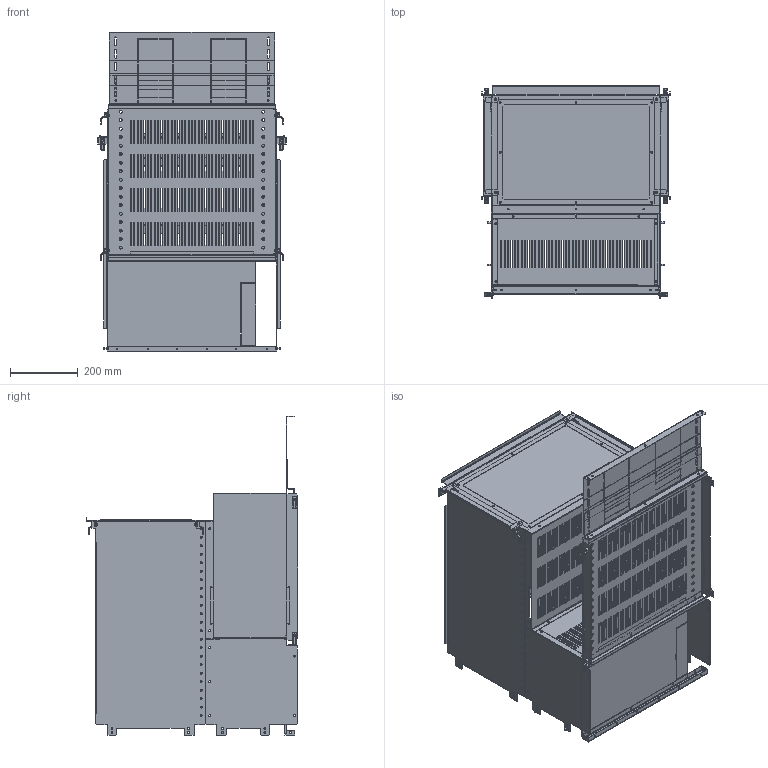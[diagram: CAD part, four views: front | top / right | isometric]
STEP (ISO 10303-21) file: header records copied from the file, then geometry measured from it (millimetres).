
FILE_DESCRIPTION(('CAx-IF Rec.Pracs.---Model Styling and Organization---1.2---2011-12-15','CAx-IF Rec.Pracs.---Geometric and Assembly Validation Properties---4.1---2014-06-16','CAx-IF Rec.Pracs.---PMI Polyline Presentation---2.0---2013-05-24'),'2;1');
FILE_NAME('R5FCMR66048 (F).stp','2021-05-06T02:38:58+03:00',(''),(''),'STEP Interface 4.4 by CT CoreTechnologie','3D_Evolution4.4 by CT CoreTechnologie','');
FILE_SCHEMA(('AUTOMOTIVE_DESIGN { 1 0 10303 214 1 1 1 1 }'));
Length unit declared in the file: millimetre
Products named in the file (21): R5FCMR66048 (F); M6x16-DIN 7985 ISR_thread; AC00C485; RB.0705.00.00.1_-07; M5x12-DIN7500C_stright; RB.0546.00.00.0_-01; RB.0706.00.00.1_-01; RB.0706.00.00.1_-03; RB.0546.00.00.0_-00; RB.0708.00.00.1_-00; RB.0705.00.00.1_-03; RB.0691.00.00.1_-02; RB.0707.00.00.1_-01; RB.0700.00.00.1_-01; RB.0699.00.00.1_-01; RB.0697.00.00.1_-01; RB.0696.00.00.1_-00; RB.0698.00.00.1_-04; RB.0695.00.00.1_-00; RB.0694.00.00.1_-00; RB.1165.00.00.0_-03
Assembly tree (40 placements, depth 2):
  R5FCMR66048 (F)
    M6x16-DIN 7985 ISR_thread  x8
    AC00C485  x8
    RB.0705.00.00.1_-07
    M5x12-DIN7500C_stright  x4
    RB.0546.00.00.0_-01  x2
    RB.0706.00.00.1_-01
    RB.0706.00.00.1_-03
    RB.0546.00.00.0_-00  x2
    RB.0708.00.00.1_-00
    RB.0705.00.00.1_-03
    RB.0691.00.00.1_-02
    RB.0707.00.00.1_-01
    RB.0700.00.00.1_-01
    RB.0699.00.00.1_-01
    RB.0697.00.00.1_-01
    RB.0696.00.00.1_-00  x2
    RB.0698.00.00.1_-04
    RB.0695.00.00.1_-00
    RB.0694.00.00.1_-00
    RB.1165.00.00.0_-03
Bounding box: 555.5 x 624 x 941 mm (x, y, z)
Surface area: 3726467.7 mm2 (no closed solid volume)
Topology: 0 solids, 58 shells, 3597 faces, 10043 edges, 6530 vertices
Faces by surface type: plane 2523, cylinder 950, bspline 124
Entity records: 93770 total; most frequent: CARTESIAN_POINT 16705, ORIENTED_EDGE 15888, DIRECTION 14626, EDGE_CURVE 7944, VECTOR 6766, LINE 6766, VERTEX_POINT 5237, EDGE_LOOP 3981
